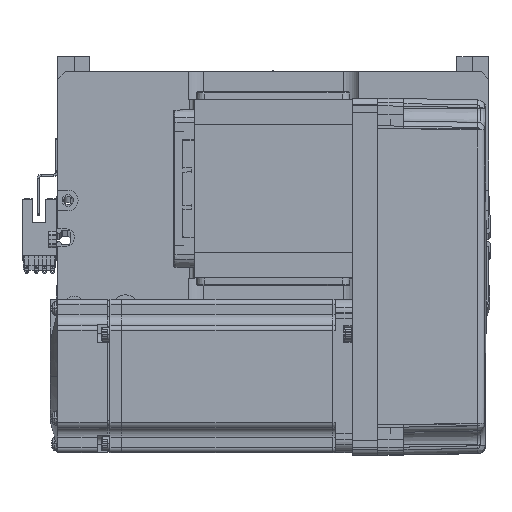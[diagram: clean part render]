
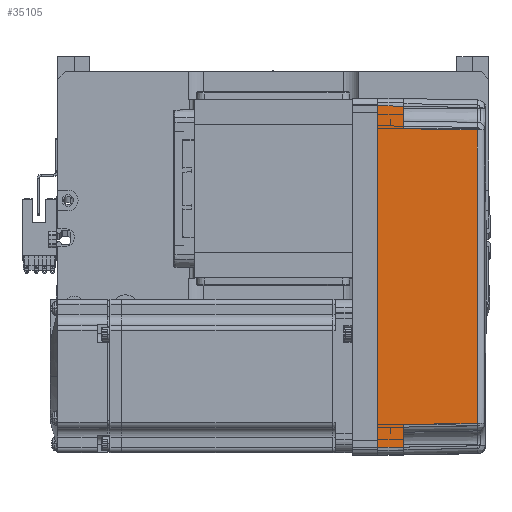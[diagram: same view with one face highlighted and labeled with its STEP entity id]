
A CAD part, top view. The second image highlights one B-rep face of the part: STEP entity #35105.
In plain terms, the highlighted planar face has unit normal (0.018, 0, 1) as drawn and (0, 1, 0.017) by its records, which use the part's own axes.
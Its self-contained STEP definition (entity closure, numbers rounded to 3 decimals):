
#328 = DIRECTION ( 'NONE',  ( -0.017, -0.017, 1. ) ) ;
#2238 = AXIS2_PLACEMENT_3D ( 'NONE', #20608, #51200, #56171 ) ;
#2655 = VECTOR ( 'NONE', #56095, 1000. ) ;
#3156 = LINE ( 'NONE', #10983, #47638 ) ;
#3569 = DIRECTION ( 'NONE',  ( 0.017, 0.017, -1. ) ) ;
#3599 = LINE ( 'NONE', #44441, #31731 ) ;
#5553 = ORIENTED_EDGE ( 'NONE', *, *, #12622, .T. ) ;
#6520 = FACE_OUTER_BOUND ( 'NONE', #43174, .T. ) ;
#8906 = VECTOR ( 'NONE', #33160, 1000. ) ;
#10983 = CARTESIAN_POINT ( 'NONE',  ( 67.001, 36.001, -0.052 ) ) ;
#11213 = PLANE ( 'NONE',  #2238 ) ;
#11438 = VECTOR ( 'NONE', #30135, 1000. ) ;
#11987 = VERTEX_POINT ( 'NONE', #15041 ) ;
#12622 = EDGE_CURVE ( 'NONE', #43057, #50685, #56362, .T. ) ;
#12892 = ORIENTED_EDGE ( 'NONE', *, *, #15091, .F. ) ;
#13107 = VECTOR ( 'NONE', #3569, 1000. ) ;
#13904 = CARTESIAN_POINT ( 'NONE',  ( -57.495, 35.32, 38.985 ) ) ;
#14530 = DIRECTION ( 'NONE',  ( 0.017, -0.017, 1. ) ) ;
#15041 = CARTESIAN_POINT ( 'NONE',  ( 58., 35.825, 10. ) ) ;
#15091 = EDGE_CURVE ( 'NONE', #24844, #56064, #64484, .T. ) ;
#16243 = CARTESIAN_POINT ( 'NONE',  ( -58., 35.825, 10. ) ) ;
#17788 = LINE ( 'NONE', #59399, #13107 ) ;
#18679 = CARTESIAN_POINT ( 'NONE',  ( -19.165, 35.316, 39.181 ) ) ;
#20084 = EDGE_CURVE ( 'NONE', #41985, #11987, #17788, .T. ) ;
#20608 = CARTESIAN_POINT ( 'NONE',  ( 70., 36., 0. ) ) ;
#22961 = LINE ( 'NONE', #36449, #2655 ) ;
#23613 = VERTEX_POINT ( 'NONE', #31868 ) ;
#24584 = CARTESIAN_POINT ( 'NONE',  ( 57.495, 35.32, 38.985 ) ) ;
#24844 = VERTEX_POINT ( 'NONE', #31597 ) ;
#28255 = VECTOR ( 'NONE', #57000, 1000. ) ;
#28473 = ORIENTED_EDGE ( 'NONE', *, *, #39638, .T. ) ;
#28640 = CARTESIAN_POINT ( 'NONE',  ( -57.495, 35.32, 38.985 ) ) ;
#30135 = DIRECTION ( 'NONE',  ( 1., 0., 0. ) ) ;
#31056 = ORIENTED_EDGE ( 'NONE', *, *, #57491, .F. ) ;
#31597 = CARTESIAN_POINT ( 'NONE',  ( -67., 36., 0. ) ) ;
#31731 = VECTOR ( 'NONE', #14530, 1000. ) ;
#31868 = CARTESIAN_POINT ( 'NONE',  ( 66.826, 35.825, 10. ) ) ;
#33160 = DIRECTION ( 'NONE',  ( 1., 0., 0. ) ) ;
#35105 = ADVANCED_FACE ( 'NONE', ( #6520 ), #11213, .T. ) ;
#35196 = VERTEX_POINT ( 'NONE', #28640 ) ;
#36449 = CARTESIAN_POINT ( 'NONE',  ( -58., 35.825, 10. ) ) ;
#37163 = CARTESIAN_POINT ( 'NONE',  ( 70., 35.825, 10. ) ) ;
#39446 = B_SPLINE_CURVE_WITH_KNOTS ( 'NONE', 3,
 ( #13904, #18679, #59022, #24584 ),
 .UNSPECIFIED., .F., .F.,
 ( 4, 4 ),
 ( 0., 1. ),
 .UNSPECIFIED. ) ;
#39453 = CARTESIAN_POINT ( 'NONE',  ( 57.495, 35.32, 38.985 ) ) ;
#39638 = EDGE_CURVE ( 'NONE', #35196, #41985, #39446, .T. ) ;
#41301 = EDGE_CURVE ( 'NONE', #24844, #43057, #3599, .T. ) ;
#41985 = VERTEX_POINT ( 'NONE', #39453 ) ;
#42478 = EDGE_CURVE ( 'NONE', #50685, #35196, #22961, .T. ) ;
#43057 = VERTEX_POINT ( 'NONE', #47780 ) ;
#43174 = EDGE_LOOP ( 'NONE', ( #55813, #5553, #44047, #28473, #53059, #64507, #31056, #12892 ) ) ;
#44047 = ORIENTED_EDGE ( 'NONE', *, *, #42478, .T. ) ;
#44441 = CARTESIAN_POINT ( 'NONE',  ( -67., 36., 0. ) ) ;
#47638 = VECTOR ( 'NONE', #328, 1000. ) ;
#47780 = CARTESIAN_POINT ( 'NONE',  ( -66.826, 35.825, 10. ) ) ;
#47988 = CARTESIAN_POINT ( 'NONE',  ( 67., 36., 0. ) ) ;
#50685 = VERTEX_POINT ( 'NONE', #16243 ) ;
#51200 = DIRECTION ( 'NONE',  ( 0., 1., 0.017 ) ) ;
#51282 = EDGE_CURVE ( 'NONE', #11987, #23613, #59615, .T. ) ;
#53059 = ORIENTED_EDGE ( 'NONE', *, *, #20084, .T. ) ;
#55813 = ORIENTED_EDGE ( 'NONE', *, *, #41301, .T. ) ;
#56064 = VERTEX_POINT ( 'NONE', #47988 ) ;
#56095 = DIRECTION ( 'NONE',  ( 0.017, -0.017, 1. ) ) ;
#56171 = DIRECTION ( 'NONE',  ( 0., -0.017, 1. ) ) ;
#56362 = LINE ( 'NONE', #37163, #28255 ) ;
#57000 = DIRECTION ( 'NONE',  ( 1., 0., 0. ) ) ;
#57491 = EDGE_CURVE ( 'NONE', #56064, #23613, #3156, .T. ) ;
#58650 = CARTESIAN_POINT ( 'NONE',  ( 70., 35.825, 10. ) ) ;
#59022 = CARTESIAN_POINT ( 'NONE',  ( 19.165, 35.316, 39.181 ) ) ;
#59129 = CARTESIAN_POINT ( 'NONE',  ( 0., 36., 0. ) ) ;
#59399 = CARTESIAN_POINT ( 'NONE',  ( 57.495, 35.32, 38.985 ) ) ;
#59615 = LINE ( 'NONE', #58650, #8906 ) ;
#64484 = LINE ( 'NONE', #59129, #11438 ) ;
#64507 = ORIENTED_EDGE ( 'NONE', *, *, #51282, .T. ) ;
